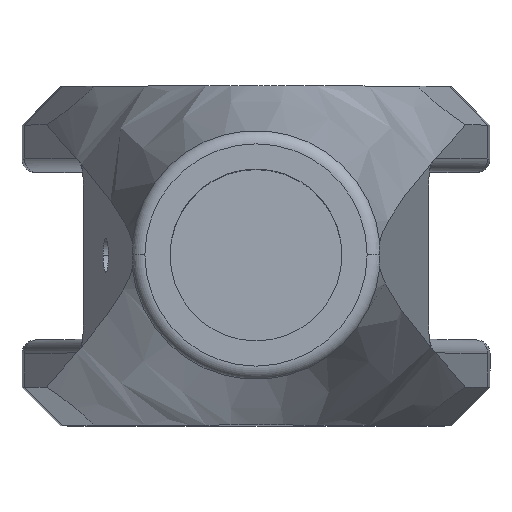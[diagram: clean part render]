
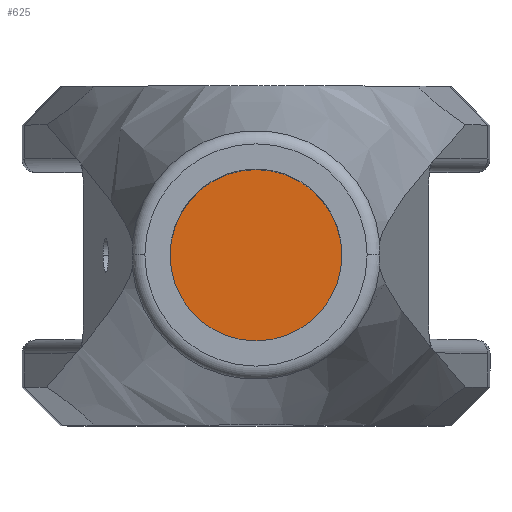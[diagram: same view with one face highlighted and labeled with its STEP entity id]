
A CAD part, top view. The second image highlights one B-rep face of the part: STEP entity #625.
In plain terms, the highlighted planar face has unit normal (0, 0, 1).
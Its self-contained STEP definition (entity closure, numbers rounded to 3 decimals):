
#194 = DIRECTION ( 'NONE',  ( 0., 0., 1. ) ) ;
#208 = ORIENTED_EDGE ( 'NONE', *, *, #1788, .T. ) ;
#330 = ORIENTED_EDGE ( 'NONE', *, *, #1858, .T. ) ;
#397 = AXIS2_PLACEMENT_3D ( 'NONE', #1187, #194, #1363 ) ;
#441 = VERTEX_POINT ( 'NONE', #1818 ) ;
#483 = CIRCLE ( 'NONE', #2119, 38. ) ;
#587 = AXIS2_PLACEMENT_3D ( 'NONE', #1849, #2009, #1018 ) ;
#625 = ADVANCED_FACE ( 'NONE', ( #1360 ), #854, .T. ) ;
#763 = EDGE_LOOP ( 'NONE', ( #208, #330 ) ) ;
#854 = PLANE ( 'NONE',  #587 ) ;
#1018 = DIRECTION ( 'NONE',  ( 1., 0., 0. ) ) ;
#1059 = VERTEX_POINT ( 'NONE', #1938 ) ;
#1101 = CARTESIAN_POINT ( 'NONE',  ( 54., 0., -152. ) ) ;
#1117 = DIRECTION ( 'NONE',  ( 0., 0., 1. ) ) ;
#1125 = DIRECTION ( 'NONE',  ( 1., 0., 0. ) ) ;
#1187 = CARTESIAN_POINT ( 'NONE',  ( 54., 0., -152. ) ) ;
#1283 = CIRCLE ( 'NONE', #397, 38. ) ;
#1360 = FACE_OUTER_BOUND ( 'NONE', #763, .T. ) ;
#1363 = DIRECTION ( 'NONE',  ( 1., 0., 0. ) ) ;
#1788 = EDGE_CURVE ( 'NONE', #441, #1059, #483, .T. ) ;
#1818 = CARTESIAN_POINT ( 'NONE',  ( 92., 0., -152. ) ) ;
#1849 = CARTESIAN_POINT ( 'NONE',  ( 54., 0., -152. ) ) ;
#1858 = EDGE_CURVE ( 'NONE', #1059, #441, #1283, .T. ) ;
#1938 = CARTESIAN_POINT ( 'NONE',  ( 16., 0., -152. ) ) ;
#2009 = DIRECTION ( 'NONE',  ( 0., 0., 1. ) ) ;
#2119 = AXIS2_PLACEMENT_3D ( 'NONE', #1101, #1117, #1125 ) ;
